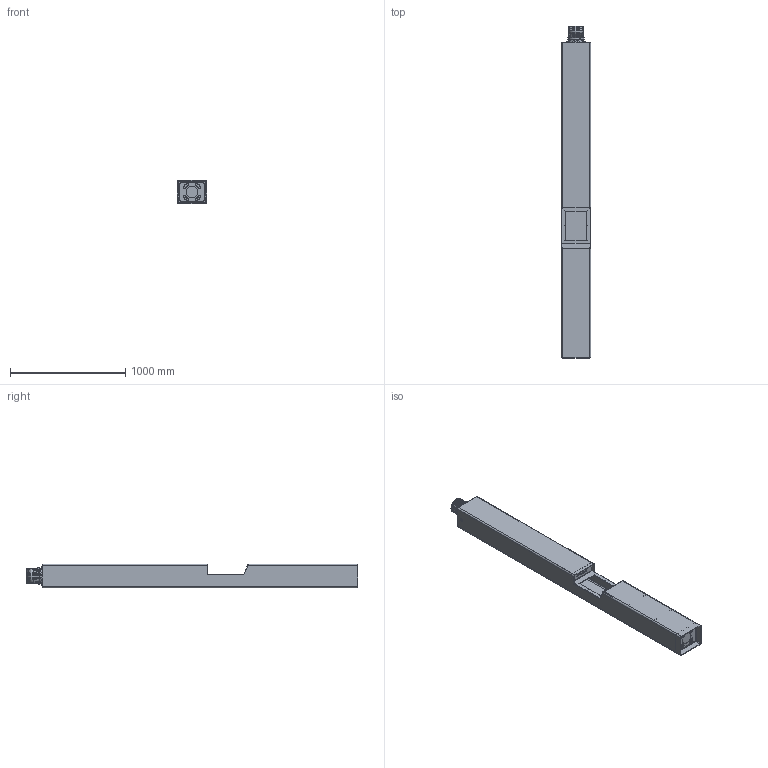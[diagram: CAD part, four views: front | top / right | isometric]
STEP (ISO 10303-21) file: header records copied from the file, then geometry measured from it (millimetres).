
FILE_DESCRIPTION (( 'STEP AP214' ), '1' );
FILE_NAME ('E00194 FOR DISTRIBUTION.STEP', '2019-11-04T15:22:24', ( '' ), ( '' ), 'SwSTEP 2.0', 'SolidWorks 2019', '' );
FILE_SCHEMA (( 'AUTOMOTIVE_DESIGN' ));
Length unit declared in the file: inch
Products named in the file (36): E00099; E00017_E00017; pan cross head_ai_11300 .25-20x0.5x0.5-N; STROBE LIGHT BASE; E00057; E00103; E00059; E00241; E00026; E00080; E00745 WIRE 10; E00745 WIRE 4; E00052; E00056; E00745 WIRE 5; E00058; E00090; E00026 WIRE 1; E00740; flush stud_pmi_E00107; E00023_E00023; E00055; E00072; E00061; E00745; E00029; E00145; E00102; E00010; E00026 WIRE 2; E00053; E00194 FOR DISTRIBUTION; E00060; E00202; E00755; STROBE LIGHT COVER 2
Assembly tree (51 placements, depth 5):
  E00194 FOR DISTRIBUTION
    E00202
      E00053
      E00055
      E00056
        E00099
        flush stud_pmi_E00107  x2
      E00057
      E00058
      E00059
      E00145
        E00061
        E00060  x4
    E00740
      E00090
        E00026
          STROBE LIGHT BASE
          STROBE LIGHT COVER 2
          pan cross head_ai_11300 .25-20x0.5x0.5-N  x4
        E00080  x2
        E00026 WIRE 1  x2
        E00026 WIRE 2  x2
      E00010
      E00029
      E00023_E00023  x3
      E00017_E00017  x3
    E00052
      E00102  x2
      E00103
    E00241  x2
    E00745
      E00072
      E00745 WIRE 4
      E00745 WIRE 5
      E00745 WIRE 10
    E00755
Bounding box: 254 x 2883.12 x 203.66 mm (x, y, z)
Volume: 13025951.4 mm3; surface area: 5668920.3 mm2
Topology: 43 solids, 43 shells, 2350 faces, 6121 edges, 3994 vertices
Faces by surface type: plane 1344, cylinder 552, bspline 250, cone 124, torus 66, sphere 14
Entity records: 82977 total; most frequent: CARTESIAN_POINT 26250, ORIENTED_EDGE 9686, DIRECTION 8567, EDGE_CURVE 4843, VERTEX_POINT 3184, LINE 3049, VECTOR 3049, AXIS2_PLACEMENT_3D 2759
